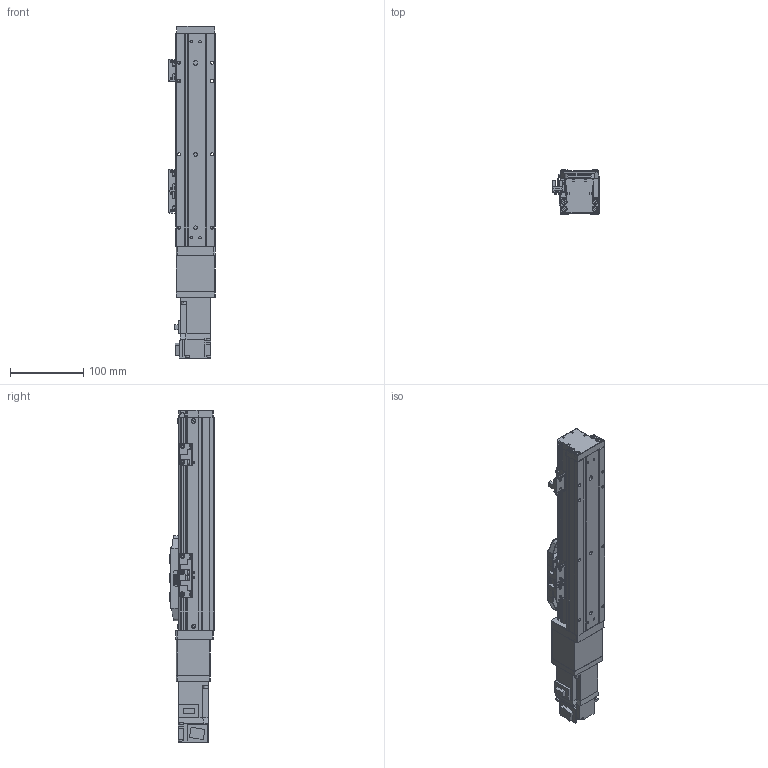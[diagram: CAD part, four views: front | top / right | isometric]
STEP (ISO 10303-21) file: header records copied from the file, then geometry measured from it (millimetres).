
FILE_DESCRIPTION (( 'STEP AP203' ), '1' );
FILE_NAME ('GTH5-150-BC-M10-C4.step', '2022-09-23T00:39:13', ( '微软用户' ), ( '微软中国' ), 'SwSTEP 2.0', 'SolidWorks 2020', '' );
FILE_SCHEMA (( 'CONFIG_CONTROL_DESIGN' ));
Length unit declared in the file: millimetre
Products named in the file (20): GBT96.1-2002 3×0.8; GTH50-001_150; GTH50-024; GBT 70.1-M4×16; GBT 70.1-M2.5×6; GTH50-003; GTH50-028; GTH50-006; GTH50-013; GTH50-022-1; CTHA60-006-2_CTHA60-006-1; GTH50-004; GTH50-023; CTHA60-027; HG-KR13; GBT 70.3-M3℅6; GBT 70.1-M3℅6; CTHA60-013; GTH5-150-BC-M10-C4; BTH-M3X5X6
Assembly tree (60 placements, depth 2):
  GTH5-150-BC-M10-C4
    GTH50-006
    GTH50-004
    GBT 70.3-M3℅6  x6
    BTH-M3X5X6  x8
    GTH50-001_150
    GBT 70.1-M4×16  x8
    GTH50-003
    GTH50-013
    GTH50-023  x3
    GBT 70.1-M3℅6  x12
    GBT96.1-2002 3×0.8  x6
    GTH50-024  x3
    GBT 70.1-M2.5×6  x2
    GTH50-028  x2
    GTH50-022-1
    CTHA60-027
    CTHA60-013
    CTHA60-006-2_CTHA60-006-1
    HG-KR13
Bounding box: 63.8 x 60 x 452.6 mm (x, y, z)
Volume: 953307.4 mm3; surface area: 187767.4 mm2
Topology: 62 solids, 62 shells, 2037 faces, 4668 edges, 2846 vertices
Faces by surface type: plane 1105, cylinder 531, cone 235, torus 158, sphere 8
Entity records: 33663 total; most frequent: DIRECTION 5423, CARTESIAN_POINT 5319, ORIENTED_EDGE 5022, EDGE_CURVE 2511, AXIS2_PLACEMENT_3D 1856, VECTOR 1711, LINE 1711, VERTEX_POINT 1586
